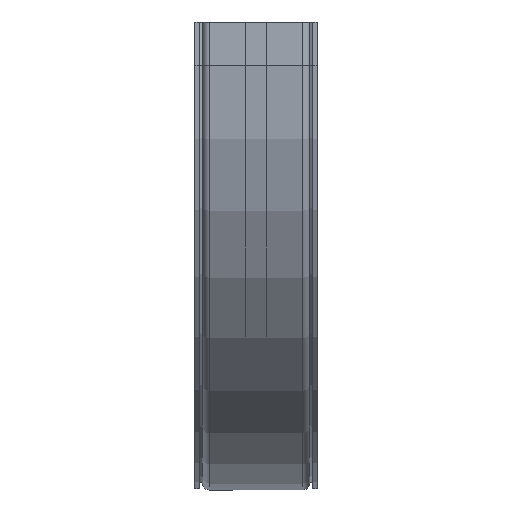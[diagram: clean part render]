
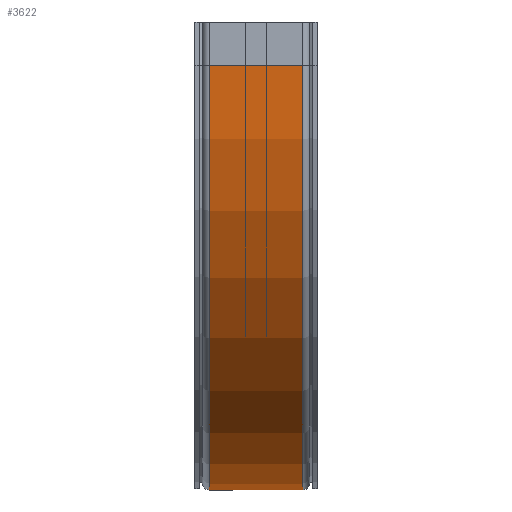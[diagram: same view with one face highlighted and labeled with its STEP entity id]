
A CAD part, left-side view. The second image highlights one B-rep face of the part: STEP entity #3622.
In plain terms, the highlighted cylindrical face has radius 392.5 mm (diameter 785 mm), a partial arc.
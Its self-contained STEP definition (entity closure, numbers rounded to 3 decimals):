
#472 = VERTEX_POINT ( 'NONE', #3522 ) ;
#609 = CIRCLE ( 'NONE', #1677, 392.5 ) ;
#868 = AXIS2_PLACEMENT_3D ( 'NONE', #4052, #3822, #4486 ) ;
#1104 = ORIENTED_EDGE ( 'NONE', *, *, #2377, .T. ) ;
#1225 = ORIENTED_EDGE ( 'NONE', *, *, #3638, .T. ) ;
#1606 = DIRECTION ( 'NONE',  ( 0., 0., 1. ) ) ;
#1677 = AXIS2_PLACEMENT_3D ( 'NONE', #1740, #1752, #1606 ) ;
#1740 = CARTESIAN_POINT ( 'NONE',  ( 350., 43., -40. ) ) ;
#1750 = CARTESIAN_POINT ( 'NONE',  ( 742.5, -43., -40. ) ) ;
#1752 = DIRECTION ( 'NONE',  ( 0., 1., 0. ) ) ;
#1785 = LINE ( 'NONE', #3012, #5670 ) ;
#2070 = ORIENTED_EDGE ( 'NONE', *, *, #2135, .F. ) ;
#2135 = EDGE_CURVE ( 'NONE', #2991, #5340, #609, .T. ) ;
#2352 = VERTEX_POINT ( 'NONE', #1750 ) ;
#2377 = EDGE_CURVE ( 'NONE', #2991, #2352, #4093, .T. ) ;
#2837 = CIRCLE ( 'NONE', #5274, 392.5 ) ;
#2991 = VERTEX_POINT ( 'NONE', #5389 ) ;
#3004 = DIRECTION ( 'NONE',  ( 0., 1., 0. ) ) ;
#3012 = CARTESIAN_POINT ( 'NONE',  ( -42.5, 0., -40. ) ) ;
#3096 = CYLINDRICAL_SURFACE ( 'NONE', #868, 392.5 ) ;
#3138 = EDGE_LOOP ( 'NONE', ( #1225, #2070, #1104, #5718 ) ) ;
#3522 = CARTESIAN_POINT ( 'NONE',  ( -42.5, -43., -40. ) ) ;
#3547 = CARTESIAN_POINT ( 'NONE',  ( 742.5, 43., -40. ) ) ;
#3622 = ADVANCED_FACE ( 'NONE', ( #5121 ), #3096, .T. ) ;
#3638 = EDGE_CURVE ( 'NONE', #472, #5340, #1785, .T. ) ;
#3663 = DIRECTION ( 'NONE',  ( 0., -1., 0. ) ) ;
#3822 = DIRECTION ( 'NONE',  ( 0., 1., 0. ) ) ;
#3910 = CARTESIAN_POINT ( 'NONE',  ( -42.5, 43., -40. ) ) ;
#4052 = CARTESIAN_POINT ( 'NONE',  ( 350., 0., -40. ) ) ;
#4093 = LINE ( 'NONE', #3547, #4144 ) ;
#4144 = VECTOR ( 'NONE', #3663, 1000. ) ;
#4486 = DIRECTION ( 'NONE',  ( 0., 0., 1. ) ) ;
#4678 = EDGE_CURVE ( 'NONE', #2352, #472, #2837, .T. ) ;
#4927 = DIRECTION ( 'NONE',  ( 0., 1., 0. ) ) ;
#4955 = CARTESIAN_POINT ( 'NONE',  ( 350., -43., -40. ) ) ;
#5053 = DIRECTION ( 'NONE',  ( 0., 0., 1. ) ) ;
#5121 = FACE_OUTER_BOUND ( 'NONE', #3138, .T. ) ;
#5274 = AXIS2_PLACEMENT_3D ( 'NONE', #4955, #4927, #5053 ) ;
#5340 = VERTEX_POINT ( 'NONE', #3910 ) ;
#5389 = CARTESIAN_POINT ( 'NONE',  ( 742.5, 43., -40. ) ) ;
#5670 = VECTOR ( 'NONE', #3004, 1000. ) ;
#5718 = ORIENTED_EDGE ( 'NONE', *, *, #4678, .T. ) ;
